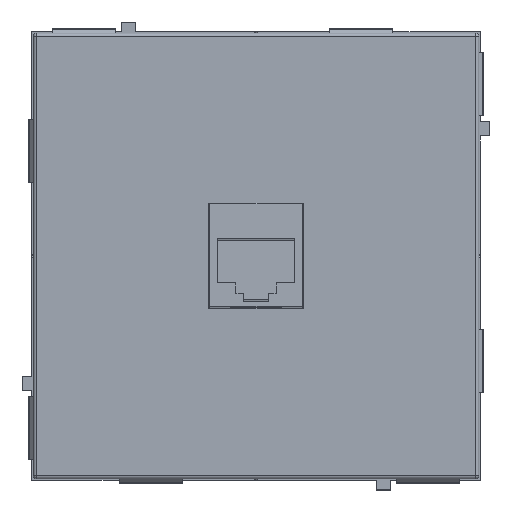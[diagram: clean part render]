
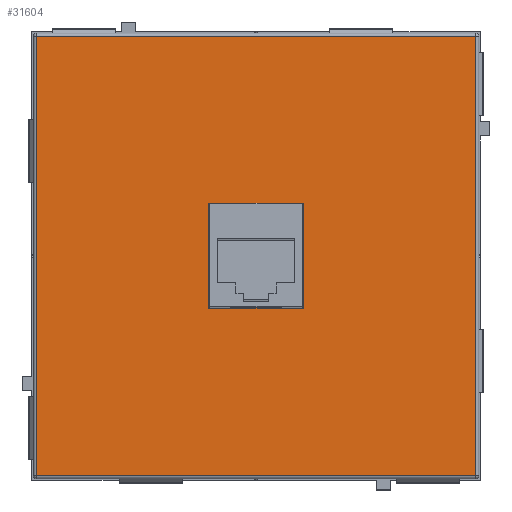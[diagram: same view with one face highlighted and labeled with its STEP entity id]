
A CAD part, top view. The second image highlights one B-rep face of the part: STEP entity #31604.
In plain terms, the highlighted planar face has unit normal (0, 0, 1).
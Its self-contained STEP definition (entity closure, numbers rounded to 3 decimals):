
#174 = EDGE_CURVE ( 'NONE', #11563, #14723, #11914, .T. ) ;
#388 = CARTESIAN_POINT ( 'NONE',  ( 34.5, 0., 7.3 ) ) ;
#1059 = EDGE_CURVE ( 'NONE', #4074, #31333, #5734, .T. ) ;
#1561 = FACE_BOUND ( 'NONE', #22901, .T. ) ;
#1691 = CARTESIAN_POINT ( 'NONE',  ( -7.4, 8.25, 7.3 ) ) ;
#1869 = ORIENTED_EDGE ( 'NONE', *, *, #9244, .T. ) ;
#1972 = CARTESIAN_POINT ( 'NONE',  ( -7.4, 8.25, 7.3 ) ) ;
#2037 = CARTESIAN_POINT ( 'NONE',  ( -7.4, -8.25, 7.3 ) ) ;
#3181 = VECTOR ( 'NONE', #4069, 1000. ) ;
#3184 = LINE ( 'NONE', #388, #27461 ) ;
#3196 = VECTOR ( 'NONE', #27246, 1000. ) ;
#4069 = DIRECTION ( 'NONE',  ( 1., 0., 0. ) ) ;
#4074 = VERTEX_POINT ( 'NONE', #26661 ) ;
#4356 = CARTESIAN_POINT ( 'NONE',  ( 0., 0., 7.3 ) ) ;
#4711 = VECTOR ( 'NONE', #6211, 1000. ) ;
#5734 = LINE ( 'NONE', #1691, #28902 ) ;
#6211 = DIRECTION ( 'NONE',  ( 0., -1., 0. ) ) ;
#6607 = ORIENTED_EDGE ( 'NONE', *, *, #10587, .T. ) ;
#7265 = VECTOR ( 'NONE', #30868, 1000. ) ;
#7450 = LINE ( 'NONE', #18845, #3196 ) ;
#8299 = EDGE_CURVE ( 'NONE', #32392, #4074, #27619, .T. ) ;
#9196 = LINE ( 'NONE', #20604, #4711 ) ;
#9244 = EDGE_CURVE ( 'NONE', #10928, #11563, #9196, .T. ) ;
#9549 = VECTOR ( 'NONE', #27974, 1000. ) ;
#10587 = EDGE_CURVE ( 'NONE', #14723, #23935, #3184, .T. ) ;
#10906 = DIRECTION ( 'NONE',  ( 0., -1., 0. ) ) ;
#10928 = VERTEX_POINT ( 'NONE', #12874 ) ;
#11386 = DIRECTION ( 'NONE',  ( 0., 1., 0. ) ) ;
#11563 = VERTEX_POINT ( 'NONE', #12920 ) ;
#11914 = LINE ( 'NONE', #20909, #3181 ) ;
#12874 = CARTESIAN_POINT ( 'NONE',  ( -34.5, 34.5, 7.3 ) ) ;
#12920 = CARTESIAN_POINT ( 'NONE',  ( -34.5, -34.5, 7.3 ) ) ;
#13111 = DIRECTION ( 'NONE',  ( 0., 0., -1. ) ) ;
#13774 = VECTOR ( 'NONE', #10906, 1000. ) ;
#14723 = VERTEX_POINT ( 'NONE', #15435 ) ;
#15435 = CARTESIAN_POINT ( 'NONE',  ( 34.5, -34.5, 7.3 ) ) ;
#16038 = CARTESIAN_POINT ( 'NONE',  ( 34.5, 34.5, 7.3 ) ) ;
#16460 = FACE_OUTER_BOUND ( 'NONE', #22536, .T. ) ;
#17750 = ORIENTED_EDGE ( 'NONE', *, *, #36211, .T. ) ;
#18845 = CARTESIAN_POINT ( 'NONE',  ( 0., 34.5, 7.3 ) ) ;
#19475 = LINE ( 'NONE', #27509, #7265 ) ;
#20604 = CARTESIAN_POINT ( 'NONE',  ( -34.5, 0., 7.3 ) ) ;
#20909 = CARTESIAN_POINT ( 'NONE',  ( 0., -34.5, 7.3 ) ) ;
#21227 = LINE ( 'NONE', #36532, #13774 ) ;
#21514 = EDGE_CURVE ( 'NONE', #25698, #32392, #21227, .T. ) ;
#21596 = CARTESIAN_POINT ( 'NONE',  ( 7.4, 8.25, 7.3 ) ) ;
#22086 = DIRECTION ( 'NONE',  ( 0., 1., 0. ) ) ;
#22536 = EDGE_LOOP ( 'NONE', ( #6607, #17750, #1869, #26752 ) ) ;
#22901 = EDGE_LOOP ( 'NONE', ( #30892, #30346, #31107, #35765 ) ) ;
#23186 = EDGE_CURVE ( 'NONE', #31333, #25698, #19475, .T. ) ;
#23935 = VERTEX_POINT ( 'NONE', #16038 ) ;
#25698 = VERTEX_POINT ( 'NONE', #21596 ) ;
#25827 = AXIS2_PLACEMENT_3D ( 'NONE', #4356, #13111, #22086 ) ;
#26661 = CARTESIAN_POINT ( 'NONE',  ( -7.4, -8.25, 7.3 ) ) ;
#26752 = ORIENTED_EDGE ( 'NONE', *, *, #174, .T. ) ;
#27246 = DIRECTION ( 'NONE',  ( -1., 0., 0. ) ) ;
#27461 = VECTOR ( 'NONE', #11386, 1000. ) ;
#27509 = CARTESIAN_POINT ( 'NONE',  ( -7.4, 8.25, 7.3 ) ) ;
#27619 = LINE ( 'NONE', #2037, #9549 ) ;
#27974 = DIRECTION ( 'NONE',  ( -1., 0., 0. ) ) ;
#28902 = VECTOR ( 'NONE', #36266, 1000. ) ;
#30318 = PLANE ( 'NONE',  #25827 ) ;
#30346 = ORIENTED_EDGE ( 'NONE', *, *, #21514, .T. ) ;
#30868 = DIRECTION ( 'NONE',  ( 1., 0., 0. ) ) ;
#30892 = ORIENTED_EDGE ( 'NONE', *, *, #23186, .T. ) ;
#31107 = ORIENTED_EDGE ( 'NONE', *, *, #8299, .T. ) ;
#31333 = VERTEX_POINT ( 'NONE', #1972 ) ;
#31604 = ADVANCED_FACE ( 'NONE', ( #1561, #16460 ), #30318, .F. ) ;
#32392 = VERTEX_POINT ( 'NONE', #36730 ) ;
#35765 = ORIENTED_EDGE ( 'NONE', *, *, #1059, .T. ) ;
#36211 = EDGE_CURVE ( 'NONE', #23935, #10928, #7450, .T. ) ;
#36266 = DIRECTION ( 'NONE',  ( 0., 1., 0. ) ) ;
#36532 = CARTESIAN_POINT ( 'NONE',  ( 7.4, 8.25, 7.3 ) ) ;
#36730 = CARTESIAN_POINT ( 'NONE',  ( 7.4, -8.25, 7.3 ) ) ;
